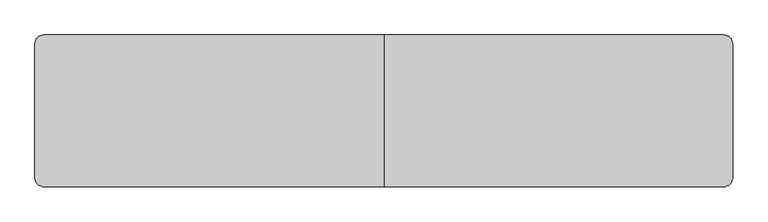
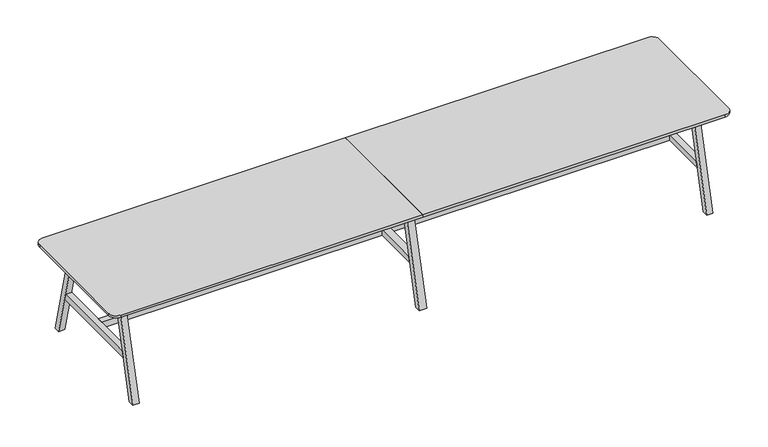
"""IFC4 building model written with IfcOpenShell, lengths in millimetres: furniture geometry, BDG_BossDesign_Tbls_AgentTables6Legs : AGE-DT-6L-4600-1000-3D."""

from ifc_helpers import new_model, si_unit, point, frame, frame_2d, origin, place, context, project, spatial, polyline, circle_curve, trimmed, segment, composite_curve, outline, extrude, source, transform, mapped, element, save


def furniture_a2356af6(model_context):
    return source(origin(), model_context, "Body", "SweptSolid", [
        extrude(outline(polyline([(500.0, 0.0), (454.9999949, 0.0), (285.5, 660.0), (330.5000051, 660.0), (500.0, 0.0)])), frame((-27.5, 0.0, 0.0), z_axis=(1.0, 0.0, 0.0), x_axis=(0.0, 1.0, 0.0)), (0.0, 0.0, 1.0), 55.0),
        extrude(outline(polyline([(-500.0, 0.0), (-330.5000051, 660.0), (-285.5, 660.0), (-454.9999949, 0.0), (-500.0, 0.0)])), frame((-27.5, 0.0, 0.0), z_axis=(1.0, 0.0, 0.0), x_axis=(0.0, 1.0, 0.0)), (0.0, 0.0, 1.0), 55.0),
        extrude(outline(polyline([(377.9545427, 300.0), (-377.9545427, 300.0), (-366.3977249, 345.0), (366.3977249, 345.0), (377.9545427, 300.0)])), frame((-27.5, 0.0, 0.0), z_axis=(1.0, 0.0, 0.0), x_axis=(0.0, 1.0, 0.0)), (0.0, 0.0, 1.0), 55.0),
        extrude(outline(composite_curve([segment(polyline([(0.0, 500.0), (0.0, -500.0), (-2240.0, -500.0)]), True, "CONTINUOUS"), segment(trimmed(circle_curve(frame_2d((-2240.0, -440.0)), 60.0), [point((-2240.0, -500.0))], [point((-2300.0, -440.0))], False, "CARTESIAN"), True, "CONTINUOUS"), segment(polyline([(-2300.0, -440.0), (-2300.0, 440.0)]), True, "CONTINUOUS"), segment(trimmed(circle_curve(frame_2d((-2240.0, 440.0)), 60.0), [point((-2300.0, 440.0))], [point((-2240.0, 500.0))], False, "CARTESIAN"), True, "CONTINUOUS"), segment(polyline([(-2240.0, 500.0), (0.0, 500.0)]), True, "CONTINUOUS")], self_intersect=False)), frame((0.0, 0.0, 722.0), z_axis=(0.0, 0.0, 1.0), x_axis=(1.0, 0.0, 0.0)), (0.0, 0.0, 1.0), 18.0),
        extrude(outline(polyline([(-366.3977249, 345.0), (366.3977249, 345.0), (377.9545427, 300.0), (-377.9545427, 300.0), (-366.3977249, 345.0)])), frame((2105.0, 0.0, 0.0), z_axis=(1.0, 0.0, 0.0), x_axis=(0.0, 1.0, 0.0)), (0.0, 0.0, 1.0), 45.0),
        extrude(outline(polyline([(500.0, 0.0), (454.9999949, 0.0), (285.5, 660.0), (330.5000051, 660.0), (500.0, 0.0)])), frame((-2150.0, 0.0, 0.0), z_axis=(1.0, 0.0, 0.0), x_axis=(0.0, 1.0, 0.0)), (0.0, 0.0, 1.0), 45.0),
        extrude(outline(polyline([(-500.0, 0.0), (-330.5000051, 660.0), (-285.5, 660.0), (-454.9999949, 0.0), (-500.0, 0.0)])), frame((-2150.0, 0.0, 0.0), z_axis=(1.0, 0.0, 0.0), x_axis=(0.0, 1.0, 0.0)), (0.0, 0.0, 1.0), 45.0),
        extrude(outline(polyline([(-366.3977249, 345.0), (366.3977249, 345.0), (377.9545427, 300.0), (-377.9545427, 300.0), (-366.3977249, 345.0)])), frame((-2150.0, 0.0, 0.0), z_axis=(1.0, 0.0, 0.0), x_axis=(0.0, 1.0, 0.0)), (0.0, 0.0, 1.0), 45.0),
        extrude(outline(polyline([(-326.6006165, 634.973938), (-304.2770691, 722.0), (-279.5, 722.0), (-301.8235474, 634.973938), (-326.6006165, 634.973938)])), frame((-2105.0, 0.0, 0.0), z_axis=(1.0, 0.0, 0.0), x_axis=(0.0, 1.0, 0.0)), (0.0, 0.0, 1.0), 4210.0),
        extrude(outline(polyline([(326.6006165, 634.973938), (301.8235474, 634.973938), (279.5, 722.0), (304.2770691, 722.0), (326.6006165, 634.973938)])), frame((-2105.0, 0.0, 0.0), z_axis=(1.0, 0.0, 0.0), x_axis=(0.0, 1.0, 0.0)), (0.0, 0.0, 1.0), 4210.0),
        extrude(outline(polyline([(499.7999878, 0.0), (454.7999827, 0.0), (285.5, 660.0), (330.5000051, 660.0), (499.7999878, 0.0)])), frame((2105.0, 0.0, 0.0), z_axis=(1.0, 0.0, 0.0), x_axis=(0.0, 1.0, 0.0)), (0.0, 0.0, 1.0), 45.0),
        extrude(outline(polyline([(-499.7999878, 0.0), (-330.5000051, 660.0), (-285.5, 660.0), (-454.7999827, 0.0), (-499.7999878, 0.0)])), frame((2105.0, 0.0, 0.0), z_axis=(1.0, 0.0, 0.0), x_axis=(0.0, 1.0, 0.0)), (0.0, 0.0, 1.0), 45.0),
        extrude(outline(polyline([(-27.5, 22.5000305), (-27.5, -22.5000305), (-2105.0, -22.5000305), (-2105.0, 22.5000305), (-27.5, 22.5000305)])), frame((0.0, 0.0, 300.0), z_axis=(0.0, 0.0, 1.0), x_axis=(1.0, 0.0, 0.0)), (0.0, 0.0, 1.0), 45.0),
        extrude(outline(polyline([(27.5, -22.5000305), (27.5, 22.5000305), (2105.0, 22.5000305), (2105.0, -22.5000305), (27.5, -22.5000305)])), frame((0.0, 0.0, 300.0), z_axis=(0.0, 0.0, 1.0), x_axis=(1.0, 0.0, 0.0)), (0.0, 0.0, 1.0), 45.0),
        extrude(outline(composite_curve([segment(trimmed(circle_curve(frame_2d((2240.0, 440.0)), 60.0), [point((2240.0, 500.0))], [point((2300.0, 440.0))], False, "CARTESIAN"), True, "CONTINUOUS"), segment(polyline([(2300.0, 440.0), (2300.0, -440.0)]), True, "CONTINUOUS"), segment(trimmed(circle_curve(frame_2d((2240.0, -440.0)), 60.0), [point((2300.0, -440.0))], [point((2240.0, -500.0))], False, "CARTESIAN"), True, "CONTINUOUS"), segment(polyline([(2240.0, -500.0), (0.0, -500.0), (0.0, 500.0), (2240.0, 500.0)]), True, "CONTINUOUS")], self_intersect=False)), frame((0.0, 0.0, 722.0), z_axis=(0.0, 0.0, 1.0), x_axis=(1.0, 0.0, 0.0)), (0.0, 0.0, 1.0), 18.0),
    ])


if __name__ == "__main__":
    model = new_model("IFC4")
    model_context = context("Model", 3, world=origin())
    ifc_project = project(units=[si_unit("LENGTHUNIT", "METRE", prefix="MILLI")], contexts=[model_context])
    site = spatial("IfcSite", under=ifc_project)
    building = spatial("IfcBuilding", under=site)
    placement = place(None, origin())
    furniture_shape = furniture_a2356af6(model_context)
    element("IfcFurniture", 1, ObjectType="BDG_BossDesign_Tbls_AgentTables6Legs : AGE-DT-6L-4600-1000-3D", at=placement, inside=building, context=model_context, shape_type="MappedRepresentation", body=[
        mapped(furniture_shape, transform((0.0, 0.0, 0.0), x_axis=(1.0, 0.0, 0.0), y_axis=(0.0, 1.0, 0.0), z_axis=(0.0, 0.0, 1.0))),
    ])
    save(model, "model.ifc")
